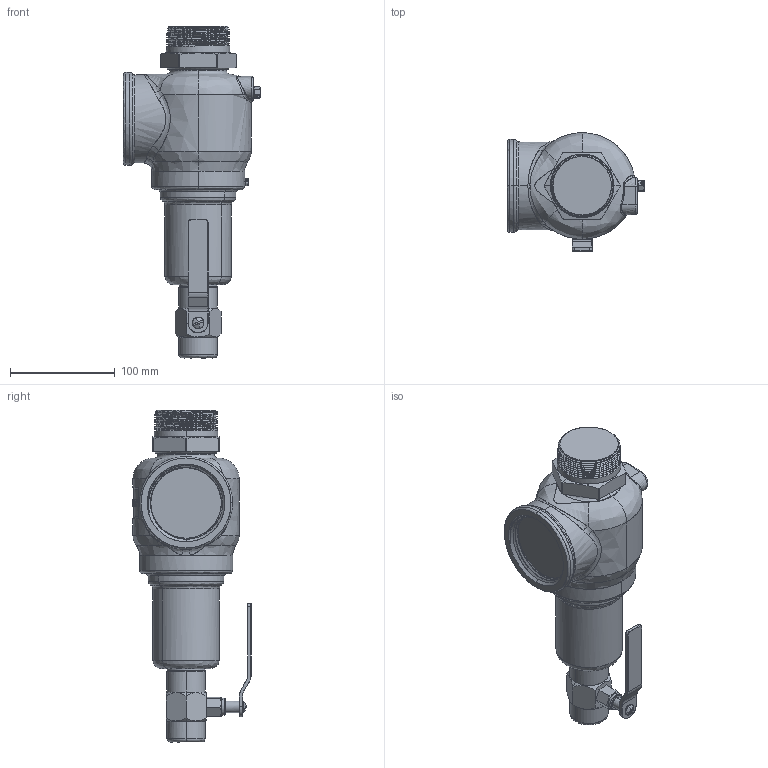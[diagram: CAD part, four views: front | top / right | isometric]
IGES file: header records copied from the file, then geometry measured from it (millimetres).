
Start section: SolidWorks IGES file using NURBS representation for surfaces
Global section: file name: C:\Design\Design\Aquatrol\Customer 3D Files\Series 740 Customer Files\H Orifice\Customer\Iges Files\Series 740 H 2000 x 2500 Packed Lever.IGS; native system: SolidWorks 2015; preprocessor: SolidWorks 2015; author: Karl; date: 150515.104003; units: inch
Bounding box: 131.74 x 112.92 x 317.49 mm (x, y, z)
Surface area: 104645.6 mm2 (no closed solid volume)
Topology: 0 solids, 0 shells, 416 faces, 7847 edges, 7847 vertices
Faces by surface type: bspline 416
